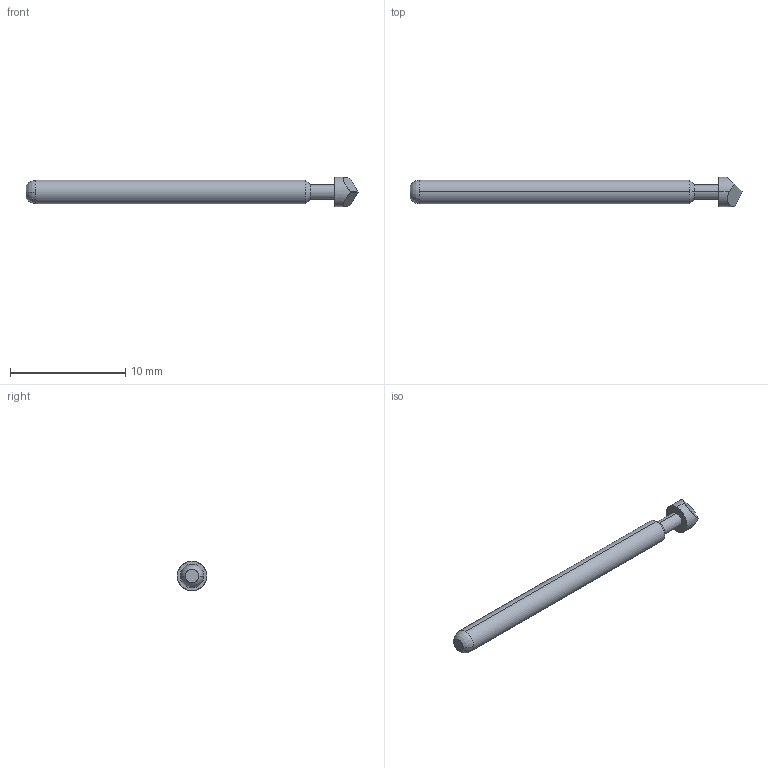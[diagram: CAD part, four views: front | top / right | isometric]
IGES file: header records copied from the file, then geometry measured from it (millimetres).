
Start section: SolidWorks IGES file using analytic representation for surfaces
Global section: file name: C:\Documents and Settings\mrumschlag\Desktop\changes\new\test\EPA-3T RECD.IGS; native system: SolidWorks 2008; preprocessor: SolidWorks 2008; author: mrumschlag; date: 110414.162813; units: inch
Bounding box: 28.78 x 2.54 x 2.54 mm (x, y, z)
Surface area: 185.9 mm2 (no closed solid volume)
Topology: 0 solids, 0 shells, 15 faces, 160 edges, 160 vertices
Faces by surface type: revolution 10, bspline 5
